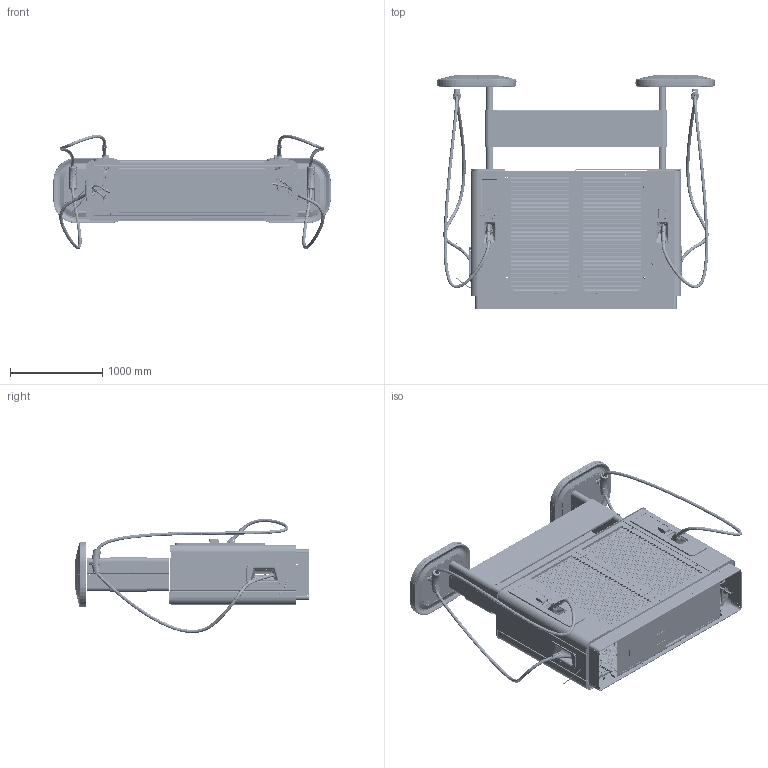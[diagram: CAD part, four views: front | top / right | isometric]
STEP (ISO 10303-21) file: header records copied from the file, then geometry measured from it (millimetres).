
FILE_DESCRIPTION (( 'STEP AP214' ), '1' );
FILE_NAME ('FLO Ultra Top Assy V03.STEP', '2023-09-29T16:16:30', ( '' ), ( '' ), 'SwSTEP 2.0', 'SolidWorks 2022', '' );
FILE_SCHEMA (( 'AUTOMOTIVE_DESIGN' ));
Length unit declared in the file: millimetre
Products named in the file (1): FLO Ultra Top Assy V03
Bounding box: 3012.53 x 2550.39 x 1238.87 mm (x, y, z)
Surface area: 37276073.4 mm2 (no closed solid volume)
Topology: 0 solids, 7907 shells, 16089 faces, 73661 edges, 63803 vertices
Faces by surface type: plane 5892, cylinder 4275, bspline 2827, cone 1654, torus 1251, sphere 190
Full cylindrical faces by diameter (mm): 0.75 x1, 1 x7, 1.143 x1, 1.5 x1, 1.575 x1, 1.587 x1, 1.786 x1, 2.5 x1, 2.591 x1, 2.997 x1, 3 x3, 3.1 x1, 3.12 x2, 3.175 x3, 3.3 x11, 3.4 x10, 3.505 x15, 3.6 x2, 4 x27, 4.2 x3, 4.3 x3, 4.674 x2, 4.763 x10, 4.8 x5, 5 x12, 5.015 x5, 5.6 x1, 5.8 x1, 5.95 x2, 6 x53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
Entity records: 1224292 total; most frequent: CARTESIAN_POINT 516735, DIRECTION 102167, ORIENTED_EDGE 81343, EDGE_CURVE 70757, VERTEX_POINT 62923, AXIS2_PLACEMENT_3D 35605, LINE 30957, VECTOR 30957
